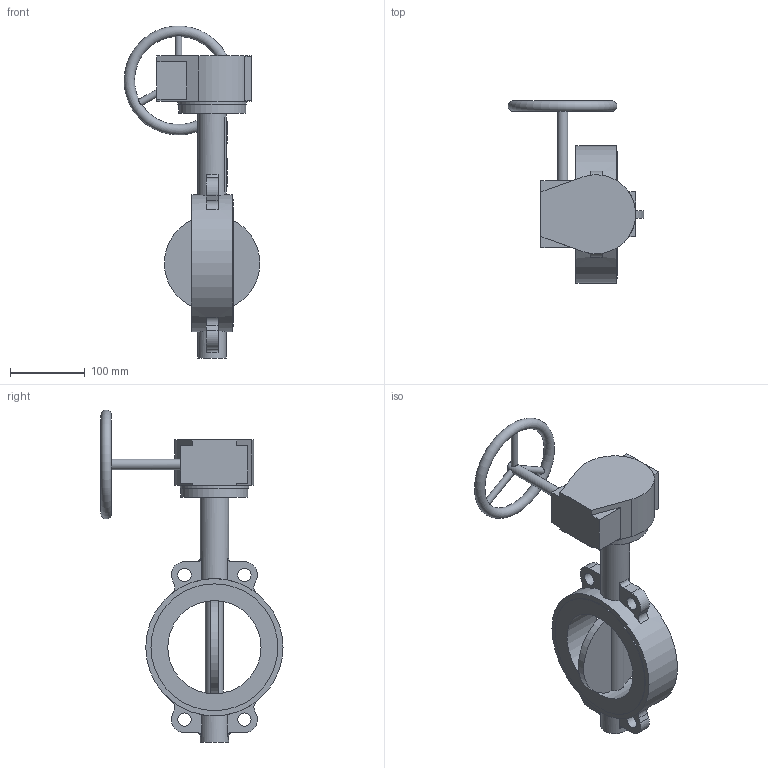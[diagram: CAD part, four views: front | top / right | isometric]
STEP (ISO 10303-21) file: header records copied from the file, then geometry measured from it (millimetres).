
FILE_DESCRIPTION(('STEP AP203'), '1');
FILE_NAME('青蜮铕 017WDN125 疱潴牝铕', '', ('UNSPECIFIED'), ('UNSPECIFIED'), 'ASCON STEP Converter 1.6', 'ASCON Math Kernel', '');
FILE_SCHEMA(('CONFIG_CONTROL_DESIGN'));
Length unit declared in the file: millimetre
Bounding box: 181.94 x 244 x 444.98 mm (x, y, z)
Volume: 800033.6 mm3; surface area: 240361.5 mm2
Topology: 1 solids, 2 shells, 683 faces, 1997 edges, 1286 vertices
Faces by surface type: cylinder 475, plane 203, torus 5
Full cylindrical faces by diameter (mm): 6.7 x4, 9 x3, 10 x4, 14 x1, 18 x4, 18.9 x1, 38 x2, 55 x1, 90 x1, 92 x1, 125 x1, 170 x2, 184 x1
Entity records: 30534 total; most frequent: CARTESIAN_POINT 6093, DIRECTION 4313, ORIENTED_EDGE 3875, EDGE_CURVE 1969, AXIS2_PLACEMENT_3D 1692, VERTEX_POINT 1285, CIRCLE 1008, LINE 929
